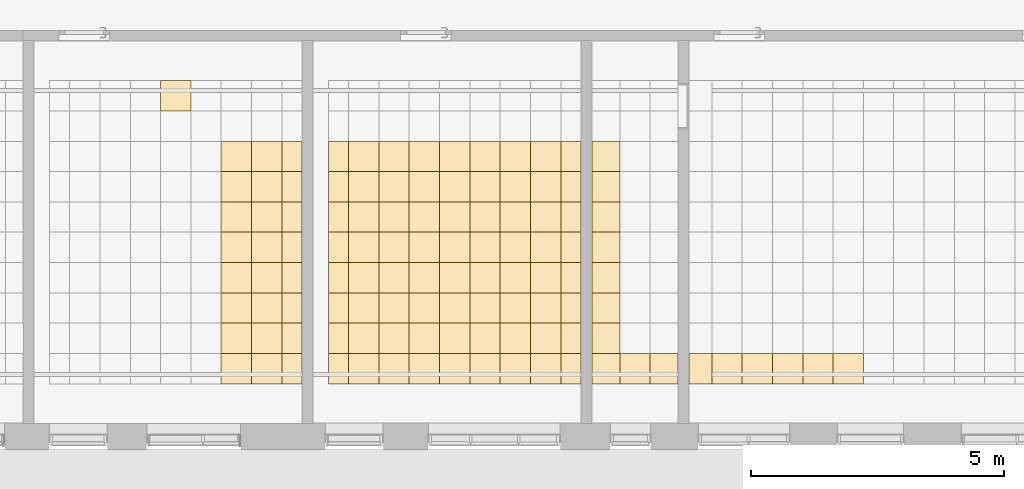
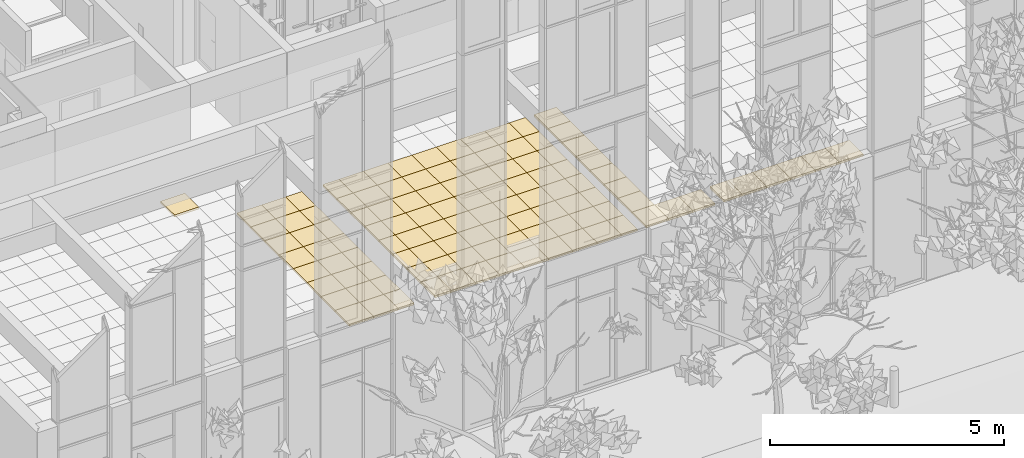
# One storey, part 189 of 246: 113 coverings.
"""IFC2X3 building model written with IfcOpenShell, lengths in millimetres."""

import ifcopenshell
import ifcopenshell.guid

model = None  # the IFC model being written
_history = None  # IfcOwnerHistory: only IFC2X3 demands one
_inside = {}  # id of a spatial element -> (the spatial element, [elements in it])
_under = {}  # id of a project, library or spatial element -> (it, [spatial elements below it])
_declared = {}  # id of a project -> (the project, [libraries it declares])
_typed = {}  # id of a type object -> (the type object, [elements of that type])
_made_of = {}  # id of a material, layer set ... -> (it, [elements and type objects made of it])


def new_model(schema):
    """Start an empty IFC model of exactly this schema.

    Asked for "IFC4X3", IfcOpenShell would pick the latest addendum, in which some entities
    have other attributes; the version numbers below select the first issue.
    IFC2X3 requires an IfcOwnerHistory on every rooted entity: one is made here for all.
    """
    global model, _history
    if schema == "IFC4X3":
        model = ifcopenshell.file(schema_version=(4, 3, 0, 0))
    else:
        model = ifcopenshell.file(schema=schema)
    _inside.clear()
    _under.clear()
    _declared.clear()
    _typed.clear()
    _made_of.clear()
    _history = None
    if model.schema == "IFC2X3":
        org = make("IfcOrganization", Name="unknown")
        user = make(
            "IfcPersonAndOrganization",
            ThePerson=make("IfcPerson", FamilyName="unknown"),
            TheOrganization=org,
        )
        app = make(
            "IfcApplication",
            ApplicationDeveloper=org,
            Version="unknown",
            ApplicationFullName="unknown",
            ApplicationIdentifier="unknown",
        )
        _history = make(
            "IfcOwnerHistory",
            OwningUser=user,
            OwningApplication=app,
            ChangeAction="ADDED",
            CreationDate=0,
        )
    return model


def make(cls, **values):
    """One entity of the class cls with the attributes given. An attribute that is None is left unset."""
    return model.create_entity(
        cls, **{name: value for name, value in values.items() if value is not None}
    )


def entity(cls, *values):
    """Any entity or typed value of the class cls, its attributes in the order of the schema. None: left unset."""
    e = model.create_entity(cls)
    for i, value in enumerate(values):
        if value is not None:
            e[i] = value
    return e


def rooted(cls, **values):
    """An entity with a GlobalId (a new one), such as an element, a storey or a relation."""
    return make(cls, GlobalId=ifcopenshell.guid.new(), OwnerHistory=_history, **values)


def si_unit(unit_type, name, prefix=None):
    """IfcSIUnit, for example si_unit("LENGTHUNIT", "METRE", prefix="MILLI")."""
    return make("IfcSIUnit", UnitType=unit_type, Prefix=prefix, Name=name)


def converted_unit(unit_type, name, factor, base, dimensions=None, offset=None):
    """IfcConversionBasedUnit, such as the inch: factor (a typed value) times the base unit."""
    return make(
        "IfcConversionBasedUnit"
        if offset is None
        else "IfcConversionBasedUnitWithOffset",
        ConversionOffset=offset,
        Dimensions=None
        if dimensions is None
        else entity("IfcDimensionalExponents", *dimensions),
        UnitType=unit_type,
        Name=name,
        ConversionFactor=make(
            "IfcMeasureWithUnit", ValueComponent=factor, UnitComponent=base
        ),
    )


def derived_unit(unit_type, elements):
    """IfcDerivedUnit: a product of units, each with its exponent."""
    return make(
        "IfcDerivedUnit",
        Elements=[
            make("IfcDerivedUnitElement", Unit=unit, Exponent=power)
            for unit, power in elements
        ],
        UnitType=unit_type,
    )


def money_unit(currency):
    """IfcMonetaryUnit."""
    return make("IfcMonetaryUnit", Currency=currency)


def assignment(units):
    """IfcUnitAssignment: the units of a project."""
    return None if units is None else make("IfcUnitAssignment", Units=units)


def point(xyz):
    """IfcCartesianPoint."""
    return None if xyz is None else make("IfcCartesianPoint", Coordinates=xyz)


def direction(xyz):
    """IfcDirection."""
    return None if xyz is None else make("IfcDirection", DirectionRatios=xyz)


def frame(location, z_axis=None, x_axis=None):
    """IfcAxis2Placement3D, a coordinate frame: its origin and axes. An axis left out is left unset."""
    return make(
        "IfcAxis2Placement3D",
        Location=point(location),
        Axis=direction(z_axis),
        RefDirection=direction(x_axis),
    )


def origin_with_axes():
    """The frame at (0, 0, 0) with the z axis (0, 0, 1) and the x axis (1, 0, 0) written out."""
    return frame((0.0, 0.0, 0.0), z_axis=(0.0, 0.0, 1.0), x_axis=(1.0, 0.0, 0.0))


def place(relative_to, where):
    """IfcLocalPlacement: puts the frame where relative to a parent placement (None: the world)."""
    return make(
        "IfcLocalPlacement", PlacementRelTo=relative_to, RelativePlacement=where
    )


def context(
    kind, dimensions, precision=None, world=None, true_north=None, identifier=None
):
    """IfcGeometricRepresentationContext, for example the 3D "Model" context."""
    return make(
        "IfcGeometricRepresentationContext",
        ContextIdentifier=identifier,
        ContextType=kind,
        CoordinateSpaceDimension=dimensions,
        Precision=precision,
        WorldCoordinateSystem=world,
        TrueNorth=true_north,
    )


def subcontext(parent, identifier, kind, view, scale=None):
    """IfcGeometricRepresentationSubContext, for example "Body" below "Model"."""
    return make(
        "IfcGeometricRepresentationSubContext",
        ContextIdentifier=identifier,
        ContextType=kind,
        ParentContext=parent,
        TargetScale=scale,
        TargetView=view,
    )


def project(units=None, contexts=None):
    """IfcProject with its units and contexts."""
    return rooted(
        "IfcProject",
        Name="project",
        RepresentationContexts=contexts,
        UnitsInContext=assignment(units),
    )


def spatial(cls, under=None, at=None, **own):
    """A site, building, storey or space (cls), placed at a placement, below another one or the project."""
    s = rooted(cls, ObjectPlacement=at, **own)
    if under is not None:
        _under.setdefault(under.id(), (under, []))[1].append(s)
    return s


def faces_of(points, faces, orient=None, outer=None):
    """IfcFace entities. A face is a list of loops; a loop is a list of indices into points, from 0.

    orient and outer hold one flag for each loop. By default every Orientation is true, the
    first loop of a face is its IfcFaceOuterBound and the others are IfcFaceBound.
    """
    made = []
    for i, loops in enumerate(faces):
        bounds = []
        for j, loop in enumerate(loops):
            is_outer = j == 0 if outer is None else outer[i][j]
            bounds.append(
                make(
                    "IfcFaceOuterBound" if is_outer else "IfcFaceBound",
                    Bound=make("IfcPolyLoop", Polygon=[points[k] for k in loop]),
                    Orientation=True if orient is None else orient[i][j],
                )
            )
        made.append(make("IfcFace", Bounds=bounds))
    return made


def faceted_brep(points, faces, orient=None, outer=None, voids=None):
    """IfcFacetedBrep: a solid bounded by flat faces; with voids (closed shells), ...WithVoids."""
    shared = [point(p) for p in points]
    hull = make("IfcClosedShell", CfsFaces=faces_of(shared, faces, orient, outer))
    if voids is None:
        return make("IfcFacetedBrep", Outer=hull)
    return make(
        "IfcFacetedBrepWithVoids",
        Outer=hull,
        Voids=[
            make(cls, CfsFaces=faces_of(shared, fs, o, b)) for cls, fs, o, b in voids
        ],
    )


def shape(context_of_items, identifier, shape_type, items):
    """IfcShapeRepresentation: the items that make up one representation, for example the "Body"."""
    return make(
        "IfcShapeRepresentation",
        ContextOfItems=context_of_items,
        RepresentationIdentifier=identifier,
        RepresentationType=shape_type,
        Items=items,
    )


def material(Name=None, Category=None):
    """IfcMaterial."""
    return make("IfcMaterial", Name=Name, Category=Category)


def material_list(materials):
    """IfcMaterialList."""
    return make("IfcMaterialList", Materials=materials)


def made_of(thing, what):
    """Note that an element or type object is made of a material, layer set ...; save() writes the relation."""
    if what is not None:
        _made_of.setdefault(what.id(), (what, []))[1].append(thing)
    return thing


def type_object(cls, material=None, **own):
    """A type object (cls), such as IfcWallType, which elements share."""
    return made_of(rooted(cls, **own), material)


def element(
    cls,
    number,
    at=None,
    inside=None,
    cuts=None,
    type_object=None,
    material=None,
    context=None,
    identifier="Body",
    shape_type=None,
    held_by="IfcProductDefinitionShape",
    body=None,
    shapes=None,
    **own,
):
    """One element of the class cls, such as IfcWall. Its Tag is "e" and its number.

    at: its placement. inside: the storey or other place that contains it. cuts: it is an
    opening in that element (IfcRelVoidsElement). A single representation is given by context,
    identifier, shape_type and body (its items); several are given by shapes. held_by: the class
    of the entity that holds the representations. save() writes the other relations.
    """
    e = rooted(cls, Tag="e%d" % number, ObjectPlacement=at, **own)
    if body is not None:
        shapes = [shape(context, identifier, shape_type, body)]
    if shapes is not None:
        e.Representation = make(held_by, Representations=shapes)
    if inside is not None:
        _inside.setdefault(inside.id(), (inside, []))[1].append(e)
    if cuts is not None:
        rooted(
            "IfcRelVoidsElement", RelatingBuildingElement=cuts, RelatedOpeningElement=e
        )
    if type_object is not None:
        _typed.setdefault(type_object.id(), (type_object, []))[1].append(e)
    return made_of(e, material)


def aggregate(whole, parts):
    """IfcRelAggregates: a whole, such as a stair, and the parts it consists of."""
    return rooted("IfcRelAggregates", RelatingObject=whole, RelatedObjects=parts)


def save(model, path):
    """Write the relations noted so far, then the file.

    IfcRelAggregates (storeys below a building ...), IfcRelContainedInSpatialStructure (elements
    in a storey), IfcRelDefinesByType, IfcRelAssociatesMaterial and IfcRelDeclares: one each for
    every whole, place, type object, material and project.
    """
    for whole, parts in _under.values():
        aggregate(whole, parts)
    for where, things in _inside.values():
        rooted(
            "IfcRelContainedInSpatialStructure",
            RelatedElements=things,
            RelatingStructure=where,
        )
    for kind, things in _typed.values():
        rooted("IfcRelDefinesByType", RelatedObjects=things, RelatingType=kind)
    for what, things in _made_of.values():
        rooted("IfcRelAssociatesMaterial", RelatedObjects=things, RelatingMaterial=what)
    for by, libraries in _declared.values():
        rooted("IfcRelDeclares", RelatingContext=by, RelatedDefinitions=libraries)
    model.write(path)


model = new_model("IFC2X3")

# Units and contexts
model_context = context("Model", 3, precision=0.01, world=origin_with_axes(), true_north=direction((0.0, 1.0)))
body_context = subcontext(model_context, "Body", "Model", "MODEL_VIEW")
ifc_project = project(units=[si_unit("LENGTHUNIT", "METRE", prefix="MILLI"), si_unit("AREAUNIT", "SQUARE_METRE"), si_unit("VOLUMEUNIT", "CUBIC_METRE"), converted_unit("PLANEANGLEUNIT", "DEGREE", entity("IfcPlaneAngleMeasure", 0.0174532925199), si_unit("PLANEANGLEUNIT", "RADIAN"), dimensions=[0, 0, 0, 0, 0, 0, 0]), si_unit("SOLIDANGLEUNIT", "STERADIAN"), money_unit("EUR"), converted_unit("TIMEUNIT", "Year", entity("IfcTimeMeasure", 31556926.0), si_unit("TIMEUNIT", "SECOND"), dimensions=[0, 0, 1, 0, 0, 0, 0]), si_unit("MASSUNIT", "GRAM", prefix="KILO"), si_unit("THERMODYNAMICTEMPERATUREUNIT", "DEGREE_CELSIUS"), si_unit("LUMINOUSINTENSITYUNIT", "LUMEN"), si_unit("ENERGYUNIT", "JOULE", prefix="MEGA"), derived_unit("THERMALCONDUCTANCEUNIT", [(si_unit("POWERUNIT", "WATT"), 1), (si_unit("LENGTHUNIT", "METRE"), -1), (si_unit("THERMODYNAMICTEMPERATUREUNIT", "KELVIN"), -1)]), derived_unit("SPECIFICHEATCAPACITYUNIT", [(si_unit("ENERGYUNIT", "JOULE"), 1), (si_unit("MASSUNIT", "GRAM", prefix="KILO"), -1), (si_unit("THERMODYNAMICTEMPERATUREUNIT", "KELVIN"), -1)]), derived_unit("MASSDENSITYUNIT", [(si_unit("MASSUNIT", "GRAM", prefix="KILO"), 1), (si_unit("VOLUMEUNIT", "CUBIC_METRE"), -1)])], contexts=[model_context])

# Site, building, storey
site_placement = place(None, origin_with_axes())
site = spatial("IfcSite", under=ifc_project, at=site_placement, Name="L.Koidula tn 11b", CompositionType="ELEMENT")
building_placement = place(site_placement, origin_with_axes())
building = spatial("IfcBuilding", under=site, at=building_placement, Name="Rakvere Riigigümnaasium", CompositionType="ELEMENT")
storey_placement = place(building_placement, origin_with_axes())
storey = spatial("IfcBuildingStorey", under=building, at=storey_placement, Name="1.korrus 0,00", CompositionType="ELEMENT", Elevation=0.0)

# Coverings
ifc_material_1 = material(Name="Karkass")
ifc_material_2 = material(Name="Kipsplaat")
ifc_material_list = material_list([ifc_material_1, ifc_material_2])
covering_type = type_object("IfcCoveringType", Name="SA-LV-Kips-moodul 55", PredefinedType="CEILING")
covering_1_placement = place(storey_placement, frame((50789.9766386, 6890.4544728, 2750.0), z_axis=(0.0, 0.0, 1.0), x_axis=(1.0, 0.0, 0.0)))
element("IfcCovering", 1, at=covering_1_placement, inside=storey, type_object=covering_type, material=ifc_material_list, Name="L-03", PredefinedType="CEILING", context=body_context, shape_type="Brep", body=[
    faceted_brep([(550.0, 0.0, 12.5), (550.0, 0.0, 54.5), (0.0, 0.0, 54.5), (0.0, 0.0, 12.5), (550.0, 600.0, 12.5), (550.0, 600.0, 54.5), (0.0, 600.0, 54.5), (0.0, 600.0, 12.5)], [[[0, 1, 2, 3]], [[4, 5, 1, 0]], [[2, 1, 5, 6]], [[3, 2, 6, 7]], [[3, 7, 4, 0]], [[7, 6, 5, 4]]]),
    faceted_brep([(0.0, 0.0, 0.0), (550.0, 0.0, 0.0), (550.0, 0.0, 12.5), (0.0, 0.0, 12.5), (0.0, 600.0, 0.0), (550.0, 600.0, 0.0), (550.0, 600.0, 12.5), (0.0, 600.0, 12.5)], [[[0, 1, 2, 3]], [[0, 4, 5, 1]], [[1, 5, 6, 2]], [[3, 2, 6, 7]], [[4, 0, 3, 7]], [[5, 4, 7, 6]]]),
])
covering_2_placement = place(storey_placement, frame((51339.9766386, 6290.4544728, 2750.0), z_axis=(0.0, 0.0, 1.0), x_axis=(1.0, 0.0, 0.0)))
element("IfcCovering", 2, at=covering_2_placement, inside=storey, type_object=covering_type, material=ifc_material_list, Name="L-03", PredefinedType="CEILING", context=body_context, shape_type="Brep", body=[
    faceted_brep([(600.0, 0.0, 12.5), (600.0, 0.0, 54.5), (0.0, 0.0, 54.5), (0.0, 0.0, 12.5), (600.0, 600.0, 12.5), (600.0, 600.0, 54.5), (0.0, 600.0, 54.5), (0.0, 600.0, 12.5)], [[[0, 1, 2, 3]], [[4, 5, 1, 0]], [[2, 1, 5, 6]], [[3, 2, 6, 7]], [[3, 7, 4, 0]], [[7, 6, 5, 4]]]),
    faceted_brep([(0.0, 0.0, 0.0), (600.0, 0.0, 0.0), (600.0, 0.0, 12.5), (0.0, 0.0, 12.5), (0.0, 600.0, 0.0), (600.0, 600.0, 0.0), (600.0, 600.0, 12.5), (0.0, 600.0, 12.5)], [[[0, 1, 2, 3]], [[0, 4, 5, 1]], [[1, 5, 6, 2]], [[3, 2, 6, 7]], [[4, 0, 3, 7]], [[5, 4, 7, 6]]]),
])
for number, where, z_axis, x_axis, name in (
    (3, (50789.9766386, 6290.4544728, 2750.0), (0.0, 0.0, 1.0), (1.0, 0.0, 0.0), "L-03"),
    (4, (50789.9766386, 10490.4544728, 2750.0), (0.0, 0.0, 1.0), (1.0, 0.0, 0.0), "L-03"),
    (5, (50789.9766386, 9890.4544728, 2750.0), (0.0, 0.0, 1.0), (1.0, 0.0, 0.0), "L-03"),
    (6, (50789.9766386, 9290.4544728, 2750.0), (0.0, 0.0, 1.0), (1.0, 0.0, 0.0), "L-03"),
    (7, (50789.9766386, 8690.4544728, 2750.0), (0.0, 0.0, 1.0), (1.0, 0.0, 0.0), "L-03"),
    (8, (50789.9766386, 8090.4544728, 2750.0), (0.0, 0.0, 1.0), (1.0, 0.0, 0.0), "L-03"),
    (9, (50789.9766386, 7490.4544728, 2750.0), (0.0, 0.0, 1.0), (1.0, 0.0, 0.0), "L-03"),
    (10, (51939.9766386, 6290.4544728, 2750.0), (0.0, 0.0, 1.0), (1.0, 0.0, 0.0), "L-03"),
):
    element("IfcCovering", number, at=place(storey_placement, frame(where, z_axis=z_axis, x_axis=x_axis)), inside=storey, type_object=covering_type, material=ifc_material_list, Name=name, PredefinedType="CEILING", context=body_context, shape_type="Brep", body=[
        faceted_brep([(550.0, 0.0, 12.5), (550.0, 0.0, 54.5), (0.0, 0.0, 54.5), (0.0, 0.0, 12.5), (550.0, 600.0, 12.5), (550.0, 600.0, 54.5), (0.0, 600.0, 54.5), (0.0, 600.0, 12.5)], [[[0, 1, 2, 3]], [[4, 5, 1, 0]], [[2, 1, 5, 6]], [[3, 2, 6, 7]], [[3, 7, 4, 0]], [[7, 6, 5, 4]]]),
        faceted_brep([(0.0, 0.0, 0.0), (550.0, 0.0, 0.0), (550.0, 0.0, 12.5), (0.0, 0.0, 12.5), (0.0, 600.0, 0.0), (550.0, 600.0, 0.0), (550.0, 600.0, 12.5), (0.0, 600.0, 12.5)], [[[0, 1, 2, 3]], [[0, 4, 5, 1]], [[1, 5, 6, 2]], [[3, 2, 6, 7]], [[4, 0, 3, 7]], [[5, 4, 7, 6]]]),
    ])
covering_3_placement = place(storey_placement, frame((42250.0010615, 11690.4535941, 2750.0), z_axis=(0.0, 0.0, 1.0), x_axis=(1.0, 0.0, 0.0)))
element("IfcCovering", 11, at=covering_3_placement, inside=storey, type_object=covering_type, material=ifc_material_list, Name="L-03", PredefinedType="CEILING", context=body_context, shape_type="Brep", body=[
    faceted_brep([(600.0, 0.0, 12.5), (600.0, 0.0, 54.5), (0.0, 0.0, 54.5), (0.0, 0.0, 12.5), (600.0, 600.0, 12.5), (600.0, 600.0, 54.5), (0.0, 600.0, 54.5), (0.0, 600.0, 12.5)], [[[0, 1, 2, 3]], [[4, 5, 1, 0]], [[2, 1, 5, 6]], [[3, 2, 6, 7]], [[3, 7, 4, 0]], [[7, 6, 5, 4]]]),
    faceted_brep([(0.0, 0.0, 0.0), (600.0, 0.0, 0.0), (600.0, 0.0, 12.5), (0.0, 0.0, 12.5), (0.0, 600.0, 0.0), (600.0, 600.0, 0.0), (600.0, 600.0, 12.5), (0.0, 600.0, 12.5)], [[[0, 1, 2, 3]], [[0, 4, 5, 1]], [[1, 5, 6, 2]], [[3, 2, 6, 7]], [[4, 0, 3, 7]], [[5, 4, 7, 6]]]),
])
for number, where, z_axis, x_axis, name in (
    (12, (44050.0010098, 10490.4535941, 2750.0), (0.0, 0.0, 1.0), (1.0, 0.0, 0.0), "L-03"),
    (13, (44050.0010098, 9890.45359412, 2750.0), (0.0, 0.0, 1.0), (1.0, 0.0, 0.0), "L-03"),
    (14, (44050.0010098, 9290.45359412, 2750.0), (0.0, 0.0, 1.0), (1.0, 0.0, 0.0), "L-03"),
    (15, (44050.0010098, 8690.45359412, 2750.0), (0.0, 0.0, 1.0), (1.0, 0.0, 0.0), "L-03"),
    (16, (44050.0010098, 8090.45359412, 2750.0), (0.0, 0.0, 1.0), (1.0, 0.0, 0.0), "L-03"),
    (17, (44050.0010098, 7490.45359412, 2750.0), (0.0, 0.0, 1.0), (1.0, 0.0, 0.0), "L-03"),
    (18, (44050.0010098, 6290.45359412, 2750.0), (0.0, 0.0, 1.0), (1.0, 0.0, 0.0), "L-03"),
    (19, (44050.0010098, 6890.45359412, 2750.0), (0.0, 0.0, 1.0), (1.0, 0.0, 0.0), "L-03"),
):
    element("IfcCovering", number, at=place(storey_placement, frame(where, z_axis=z_axis, x_axis=x_axis)), inside=storey, type_object=covering_type, material=ifc_material_list, Name=name, PredefinedType="CEILING", context=body_context, shape_type="Brep", body=[
        faceted_brep([(599.999948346, 0.0, 12.5), (599.999948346, 0.0, 54.5), (0.0, 0.0, 54.5), (0.0, 0.0, 12.5), (599.999948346, 600.0, 12.5), (599.999948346, 600.0, 54.5), (0.0, 600.0, 54.5), (0.0, 600.0, 12.5)], [[[0, 1, 2, 3]], [[4, 5, 1, 0]], [[2, 1, 5, 6]], [[3, 2, 6, 7]], [[3, 7, 4, 0]], [[7, 6, 5, 4]]]),
        faceted_brep([(0.0, 0.0, 0.0), (599.999948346, 0.0, 0.0), (599.999948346, 0.0, 12.5), (0.0, 0.0, 12.5), (0.0, 600.0, 0.0), (599.999948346, 600.0, 0.0), (599.999948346, 600.0, 12.5), (0.0, 600.0, 12.5)], [[[0, 1, 2, 3]], [[0, 4, 5, 1]], [[1, 5, 6, 2]], [[3, 2, 6, 7]], [[4, 0, 3, 7]], [[5, 4, 7, 6]]]),
    ])
for number, where, z_axis, x_axis, name in (
    (20, (43450.0010098, 7490.45359412, 2750.0), (0.0, 0.0, 1.0), (1.0, 0.0, 0.0), "L-03"),
    (21, (43450.0010098, 8090.45359412, 2750.0), (0.0, 0.0, 1.0), (1.0, 0.0, 0.0), "L-03"),
    (22, (43450.0010098, 8690.45359412, 2750.0), (0.0, 0.0, 1.0), (1.0, 0.0, 0.0), "L-03"),
    (23, (43450.0010098, 9290.45359412, 2750.0), (0.0, 0.0, 1.0), (1.0, 0.0, 0.0), "L-03"),
    (24, (43450.0010098, 9890.45359412, 2750.0), (0.0, 0.0, 1.0), (1.0, 0.0, 0.0), "L-03"),
    (25, (43450.0010098, 10490.4535941, 2750.0), (0.0, 0.0, 1.0), (1.0, 0.0, 0.0), "L-03"),
    (26, (43450.0010098, 6290.45359412, 2750.0), (0.0, 0.0, 1.0), (1.0, 0.0, 0.0), "L-03"),
    (27, (43450.0010098, 6890.45359412, 2750.0), (0.0, 0.0, 1.0), (1.0, 0.0, 0.0), "L-03"),
):
    element("IfcCovering", number, at=place(storey_placement, frame(where, z_axis=z_axis, x_axis=x_axis)), inside=storey, type_object=covering_type, material=ifc_material_list, Name=name, PredefinedType="CEILING", context=body_context, shape_type="Brep", body=[
        faceted_brep([(600.0, 0.0, 12.5), (600.0, 0.0, 54.5), (0.0, 0.0, 54.5), (0.0, 0.0, 12.5), (600.0, 600.0, 12.5), (600.0, 600.0, 54.5), (0.0, 600.0, 54.5), (0.0, 600.0, 12.5)], [[[0, 1, 2, 3]], [[4, 5, 1, 0]], [[2, 1, 5, 6]], [[3, 2, 6, 7]], [[3, 7, 4, 0]], [[7, 6, 5, 4]]]),
        faceted_brep([(0.0, 0.0, 0.0), (600.0, 0.0, 0.0), (600.0, 0.0, 12.5), (0.0, 0.0, 12.5), (0.0, 600.0, 0.0), (600.0, 600.0, 0.0), (600.0, 600.0, 12.5), (0.0, 600.0, 12.5)], [[[0, 1, 2, 3]], [[0, 4, 5, 1]], [[1, 5, 6, 2]], [[3, 2, 6, 7]], [[4, 0, 3, 7]], [[5, 4, 7, 6]]]),
    ])
for number, where, z_axis, x_axis, name in (
    (28, (44650.0009582, 7490.45359412, 2750.0), (0.0, 0.0, 1.0), (1.0, 0.0, 0.0), "L-03"),
    (29, (44650.0009582, 8090.45359412, 2750.0), (0.0, 0.0, 1.0), (1.0, 0.0, 0.0), "L-03"),
    (30, (44650.0009582, 8690.45359412, 2750.0), (0.0, 0.0, 1.0), (1.0, 0.0, 0.0), "L-03"),
    (31, (44650.0009582, 9290.45359412, 2750.0), (0.0, 0.0, 1.0), (1.0, 0.0, 0.0), "L-03"),
    (32, (44650.0009582, 9890.45359412, 2750.0), (0.0, 0.0, 1.0), (1.0, 0.0, 0.0), "L-03"),
    (33, (44650.0009582, 10490.4535941, 2750.0), (0.0, 0.0, 1.0), (1.0, 0.0, 0.0), "L-03"),
    (34, (44650.0009582, 6290.45359412, 2750.0), (0.0, 0.0, 1.0), (1.0, 0.0, 0.0), "L-03"),
    (35, (44650.0009582, 6890.45359412, 2750.0), (0.0, 0.0, 1.0), (1.0, 0.0, 0.0), "L-03"),
):
    element("IfcCovering", number, at=place(storey_placement, frame(where, z_axis=z_axis, x_axis=x_axis)), inside=storey, type_object=covering_type, material=ifc_material_list, Name=name, PredefinedType="CEILING", context=body_context, shape_type="Brep", body=[
        faceted_brep([(399.999039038, 0.0, 12.5), (399.999039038, 0.0, 54.5), (0.0, 0.0, 54.5), (0.0, 0.0, 12.5), (399.999039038, 600.0, 12.5), (399.999039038, 600.0, 54.5), (0.0, 600.0, 54.5), (0.0, 600.0, 12.5)], [[[0, 1, 2, 3]], [[4, 5, 1, 0]], [[2, 1, 5, 6]], [[3, 2, 6, 7]], [[3, 7, 4, 0]], [[7, 6, 5, 4]]]),
        faceted_brep([(0.0, 0.0, 0.0), (399.999039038, 0.0, 0.0), (399.999039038, 0.0, 12.5), (0.0, 0.0, 12.5), (0.0, 600.0, 0.0), (399.999039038, 600.0, 0.0), (399.999039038, 600.0, 12.5), (0.0, 600.0, 12.5)], [[[0, 1, 2, 3]], [[0, 4, 5, 1]], [[1, 5, 6, 2]], [[3, 2, 6, 7]], [[4, 0, 3, 7]], [[5, 4, 7, 6]]]),
    ])
for number, where, z_axis, x_axis, name in (
    (36, (45969.6842448, 10490.4535941, 2750.0), (0.0, 0.0, 1.0), (1.0, 0.0, 0.0), "L-03"),
    (37, (45969.6842448, 9890.45359412, 2750.0), (0.0, 0.0, 1.0), (1.0, 0.0, 0.0), "L-03"),
    (38, (45969.6842448, 9290.45359412, 2750.0), (0.0, 0.0, 1.0), (1.0, 0.0, 0.0), "L-03"),
    (39, (45969.6842448, 8690.45359412, 2750.0), (0.0, 0.0, 1.0), (1.0, 0.0, 0.0), "L-03"),
    (40, (45969.6842448, 8090.45359412, 2750.0), (0.0, 0.0, 1.0), (1.0, 0.0, 0.0), "L-03"),
    (41, (45969.6842448, 7490.45359412, 2750.0), (0.0, 0.0, 1.0), (1.0, 0.0, 0.0), "L-03"),
    (42, (45969.6842448, 6290.45359412, 2750.0), (0.0, 0.0, 1.0), (1.0, 0.0, 0.0), "L-03"),
    (43, (45969.6842448, 6890.45359412, 2750.0), (0.0, 0.0, 1.0), (1.0, 0.0, 0.0), "L-03"),
):
    element("IfcCovering", number, at=place(storey_placement, frame(where, z_axis=z_axis, x_axis=x_axis)), inside=storey, type_object=covering_type, material=ifc_material_list, Name=name, PredefinedType="CEILING", context=body_context, shape_type="Brep", body=[
        faceted_brep([(599.999948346, 0.0, 12.5), (599.999948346, 0.0, 54.5), (0.0, 0.0, 54.5), (0.0, 0.0, 12.5), (599.999948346, 600.0, 12.5), (599.999948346, 600.0, 54.5), (0.0, 600.0, 54.5), (0.0, 600.0, 12.5)], [[[0, 1, 2, 3]], [[4, 5, 1, 0]], [[2, 1, 5, 6]], [[3, 2, 6, 7]], [[3, 7, 4, 0]], [[7, 6, 5, 4]]]),
        faceted_brep([(0.0, 0.0, 0.0), (599.999948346, 0.0, 0.0), (599.999948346, 0.0, 12.5), (0.0, 0.0, 12.5), (0.0, 600.0, 0.0), (599.999948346, 600.0, 0.0), (599.999948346, 600.0, 12.5), (0.0, 600.0, 12.5)], [[[0, 1, 2, 3]], [[0, 4, 5, 1]], [[1, 5, 6, 2]], [[3, 2, 6, 7]], [[4, 0, 3, 7]], [[5, 4, 7, 6]]]),
    ])
for number, where, z_axis, x_axis, name in (
    (44, (45569.6830772, 7490.45359412, 2750.0), (0.0, 0.0, 1.0), (1.0, 0.0, 0.0), "L-03"),
    (45, (45569.6830772, 8090.45359412, 2750.0), (0.0, 0.0, 1.0), (1.0, 0.0, 0.0), "L-03"),
    (46, (45569.6830772, 8690.45359412, 2750.0), (0.0, 0.0, 1.0), (1.0, 0.0, 0.0), "L-03"),
    (47, (45569.6830772, 9290.45359412, 2750.0), (0.0, 0.0, 1.0), (1.0, 0.0, 0.0), "L-03"),
    (48, (45569.6830772, 9890.45359412, 2750.0), (0.0, 0.0, 1.0), (1.0, 0.0, 0.0), "L-03"),
    (49, (45569.6830772, 10490.4535941, 2750.0), (0.0, 0.0, 1.0), (1.0, 0.0, 0.0), "L-03"),
    (50, (45569.6830772, 6290.45359412, 2750.0), (0.0, 0.0, 1.0), (1.0, 0.0, 0.0), "L-03"),
    (51, (45569.6830772, 6890.45359412, 2750.0), (0.0, 0.0, 1.0), (1.0, 0.0, 0.0), "L-03"),
):
    element("IfcCovering", number, at=place(storey_placement, frame(where, z_axis=z_axis, x_axis=x_axis)), inside=storey, type_object=covering_type, material=ifc_material_list, Name=name, PredefinedType="CEILING", context=body_context, shape_type="Brep", body=[
        faceted_brep([(400.001167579, 0.0, 12.5), (400.001167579, 0.0, 54.5), (0.0, 0.0, 54.5), (0.0, 0.0, 12.5), (400.001167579, 600.0, 12.5), (400.001167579, 600.0, 54.5), (0.0, 600.0, 54.5), (0.0, 600.0, 12.5)], [[[0, 1, 2, 3]], [[4, 5, 1, 0]], [[2, 1, 5, 6]], [[3, 2, 6, 7]], [[3, 7, 4, 0]], [[7, 6, 5, 4]]]),
        faceted_brep([(0.0, 0.0, 0.0), (400.001167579, 0.0, 0.0), (400.001167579, 0.0, 12.5), (0.0, 0.0, 12.5), (0.0, 600.0, 0.0), (400.001167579, 600.0, 0.0), (400.001167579, 600.0, 12.5), (0.0, 600.0, 12.5)], [[[0, 1, 2, 3]], [[0, 4, 5, 1]], [[1, 5, 6, 2]], [[3, 2, 6, 7]], [[4, 0, 3, 7]], [[5, 4, 7, 6]]]),
    ])
for number, where, z_axis, x_axis, name in (
    (52, (47169.6841932, 10490.4535941, 2750.0), (0.0, 0.0, 1.0), (1.0, 0.0, 0.0), "L-03"),
    (53, (47169.6841932, 9890.45359412, 2750.0), (0.0, 0.0, 1.0), (1.0, 0.0, 0.0), "L-03"),
    (54, (47169.6841932, 9290.45359412, 2750.0), (0.0, 0.0, 1.0), (1.0, 0.0, 0.0), "L-03"),
    (55, (47169.6841932, 8690.45359412, 2750.0), (0.0, 0.0, 1.0), (1.0, 0.0, 0.0), "L-03"),
    (56, (47169.6841932, 8090.45359412, 2750.0), (0.0, 0.0, 1.0), (1.0, 0.0, 0.0), "L-03"),
    (57, (47169.6841932, 7490.45359412, 2750.0), (0.0, 0.0, 1.0), (1.0, 0.0, 0.0), "L-03"),
    (58, (47169.6841932, 6290.45359412, 2750.0), (0.0, 0.0, 1.0), (1.0, 0.0, 0.0), "L-03"),
    (59, (47169.6841932, 6890.45359412, 2750.0), (0.0, 0.0, 1.0), (1.0, 0.0, 0.0), "L-03"),
):
    element("IfcCovering", number, at=place(storey_placement, frame(where, z_axis=z_axis, x_axis=x_axis)), inside=storey, type_object=covering_type, material=ifc_material_list, Name=name, PredefinedType="CEILING", context=body_context, shape_type="Brep", body=[
        faceted_brep([(599.999948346, 0.0, 12.5), (599.999948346, 0.0, 54.5), (0.0, 0.0, 54.5), (0.0, 0.0, 12.5), (599.999948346, 600.0, 12.5), (599.999948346, 600.0, 54.5), (0.0, 600.0, 54.5), (0.0, 600.0, 12.5)], [[[0, 1, 2, 3]], [[4, 5, 1, 0]], [[2, 1, 5, 6]], [[3, 2, 6, 7]], [[3, 7, 4, 0]], [[7, 6, 5, 4]]]),
        faceted_brep([(0.0, 0.0, 0.0), (599.999948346, 0.0, 0.0), (599.999948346, 0.0, 12.5), (0.0, 0.0, 12.5), (0.0, 600.0, 0.0), (599.999948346, 600.0, 0.0), (599.999948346, 600.0, 12.5), (0.0, 600.0, 12.5)], [[[0, 1, 2, 3]], [[0, 4, 5, 1]], [[1, 5, 6, 2]], [[3, 2, 6, 7]], [[4, 0, 3, 7]], [[5, 4, 7, 6]]]),
    ])
for number, where, z_axis, x_axis, name in (
    (60, (46569.6841932, 7490.45359412, 2750.0), (0.0, 0.0, 1.0), (1.0, 0.0, 0.0), "L-03"),
    (61, (46569.6841932, 8090.45359412, 2750.0), (0.0, 0.0, 1.0), (1.0, 0.0, 0.0), "L-03"),
    (62, (46569.6841932, 8690.45359412, 2750.0), (0.0, 0.0, 1.0), (1.0, 0.0, 0.0), "L-03"),
    (63, (46569.6841932, 9290.45359412, 2750.0), (0.0, 0.0, 1.0), (1.0, 0.0, 0.0), "L-03"),
    (64, (46569.6841932, 9890.45359412, 2750.0), (0.0, 0.0, 1.0), (1.0, 0.0, 0.0), "L-03"),
    (65, (46569.6841932, 10490.4535941, 2750.0), (0.0, 0.0, 1.0), (1.0, 0.0, 0.0), "L-03"),
    (66, (46569.6841932, 6290.45359412, 2750.0), (0.0, 0.0, 1.0), (1.0, 0.0, 0.0), "L-03"),
    (67, (46569.6841932, 6890.45359412, 2750.0), (0.0, 0.0, 1.0), (1.0, 0.0, 0.0), "L-03"),
):
    element("IfcCovering", number, at=place(storey_placement, frame(where, z_axis=z_axis, x_axis=x_axis)), inside=storey, type_object=covering_type, material=ifc_material_list, Name=name, PredefinedType="CEILING", context=body_context, shape_type="Brep", body=[
        faceted_brep([(600.0, 0.0, 12.5), (600.0, 0.0, 54.5), (0.0, 0.0, 54.5), (0.0, 0.0, 12.5), (600.0, 600.0, 12.5), (600.0, 600.0, 54.5), (0.0, 600.0, 54.5), (0.0, 600.0, 12.5)], [[[0, 1, 2, 3]], [[4, 5, 1, 0]], [[2, 1, 5, 6]], [[3, 2, 6, 7]], [[3, 7, 4, 0]], [[7, 6, 5, 4]]]),
        faceted_brep([(0.0, 0.0, 0.0), (600.0, 0.0, 0.0), (600.0, 0.0, 12.5), (0.0, 0.0, 12.5), (0.0, 600.0, 0.0), (600.0, 600.0, 0.0), (600.0, 600.0, 12.5), (0.0, 600.0, 12.5)], [[[0, 1, 2, 3]], [[0, 4, 5, 1]], [[1, 5, 6, 2]], [[3, 2, 6, 7]], [[4, 0, 3, 7]], [[5, 4, 7, 6]]]),
    ])
for number, where, z_axis, x_axis, name in (
    (68, (48369.6841415, 10490.4535941, 2750.0), (0.0, 0.0, 1.0), (1.0, 0.0, 0.0), "L-03"),
    (69, (48369.6841415, 9890.45359412, 2750.0), (0.0, 0.0, 1.0), (1.0, 0.0, 0.0), "L-03"),
    (70, (48369.6841415, 9290.45359412, 2750.0), (0.0, 0.0, 1.0), (1.0, 0.0, 0.0), "L-03"),
    (71, (48369.6841415, 8690.45359412, 2750.0), (0.0, 0.0, 1.0), (1.0, 0.0, 0.0), "L-03"),
    (72, (48369.6841415, 8090.45359412, 2750.0), (0.0, 0.0, 1.0), (1.0, 0.0, 0.0), "L-03"),
    (73, (48369.6841415, 7490.45359412, 2750.0), (0.0, 0.0, 1.0), (1.0, 0.0, 0.0), "L-03"),
    (74, (48369.6841415, 6290.45359412, 2750.0), (0.0, 0.0, 1.0), (1.0, 0.0, 0.0), "L-03"),
    (75, (48369.6841415, 6890.45359412, 2750.0), (0.0, 0.0, 1.0), (1.0, 0.0, 0.0), "L-03"),
):
    element("IfcCovering", number, at=place(storey_placement, frame(where, z_axis=z_axis, x_axis=x_axis)), inside=storey, type_object=covering_type, material=ifc_material_list, Name=name, PredefinedType="CEILING", context=body_context, shape_type="Brep", body=[
        faceted_brep([(599.999948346, 0.0, 12.5), (599.999948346, 0.0, 54.5), (0.0, 0.0, 54.5), (0.0, 0.0, 12.5), (599.999948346, 600.0, 12.5), (599.999948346, 600.0, 54.5), (0.0, 600.0, 54.5), (0.0, 600.0, 12.5)], [[[0, 1, 2, 3]], [[4, 5, 1, 0]], [[2, 1, 5, 6]], [[3, 2, 6, 7]], [[3, 7, 4, 0]], [[7, 6, 5, 4]]]),
        faceted_brep([(0.0, 0.0, 0.0), (599.999948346, 0.0, 0.0), (599.999948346, 0.0, 12.5), (0.0, 0.0, 12.5), (0.0, 600.0, 0.0), (599.999948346, 600.0, 0.0), (599.999948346, 600.0, 12.5), (0.0, 600.0, 12.5)], [[[0, 1, 2, 3]], [[0, 4, 5, 1]], [[1, 5, 6, 2]], [[3, 2, 6, 7]], [[4, 0, 3, 7]], [[5, 4, 7, 6]]]),
    ])
for number, where, z_axis, x_axis, name in (
    (76, (47769.6841415, 7490.45359412, 2750.0), (0.0, 0.0, 1.0), (1.0, 0.0, 0.0), "L-03"),
    (77, (47769.6841415, 8090.45359412, 2750.0), (0.0, 0.0, 1.0), (1.0, 0.0, 0.0), "L-03"),
    (78, (47769.6841415, 8690.45359412, 2750.0), (0.0, 0.0, 1.0), (1.0, 0.0, 0.0), "L-03"),
    (79, (47769.6841415, 9290.45359412, 2750.0), (0.0, 0.0, 1.0), (1.0, 0.0, 0.0), "L-03"),
    (80, (47769.6841415, 9890.45359412, 2750.0), (0.0, 0.0, 1.0), (1.0, 0.0, 0.0), "L-03"),
    (81, (47769.6841415, 10490.4535941, 2750.0), (0.0, 0.0, 1.0), (1.0, 0.0, 0.0), "L-03"),
    (82, (47769.6841415, 6290.45359412, 2750.0), (0.0, 0.0, 1.0), (1.0, 0.0, 0.0), "L-03"),
    (83, (47769.6841415, 6890.45359412, 2750.0), (0.0, 0.0, 1.0), (1.0, 0.0, 0.0), "L-03"),
):
    element("IfcCovering", number, at=place(storey_placement, frame(where, z_axis=z_axis, x_axis=x_axis)), inside=storey, type_object=covering_type, material=ifc_material_list, Name=name, PredefinedType="CEILING", context=body_context, shape_type="Brep", body=[
        faceted_brep([(600.0, 0.0, 12.5), (600.0, 0.0, 54.5), (0.0, 0.0, 54.5), (0.0, 0.0, 12.5), (600.0, 600.0, 12.5), (600.0, 600.0, 54.5), (0.0, 600.0, 54.5), (0.0, 600.0, 12.5)], [[[0, 1, 2, 3]], [[4, 5, 1, 0]], [[2, 1, 5, 6]], [[3, 2, 6, 7]], [[3, 7, 4, 0]], [[7, 6, 5, 4]]]),
        faceted_brep([(0.0, 0.0, 0.0), (600.0, 0.0, 0.0), (600.0, 0.0, 12.5), (0.0, 0.0, 12.5), (0.0, 600.0, 0.0), (600.0, 600.0, 0.0), (600.0, 600.0, 12.5), (0.0, 600.0, 12.5)], [[[0, 1, 2, 3]], [[0, 4, 5, 1]], [[1, 5, 6, 2]], [[3, 2, 6, 7]], [[4, 0, 3, 7]], [[5, 4, 7, 6]]]),
    ])
for number, where, z_axis, x_axis, name in (
    (84, (49569.6840899, 10490.4535941, 2750.0), (0.0, 0.0, 1.0), (1.0, 0.0, 0.0), "L-03"),
    (85, (49569.6840899, 9890.45359412, 2750.0), (0.0, 0.0, 1.0), (1.0, 0.0, 0.0), "L-03"),
    (86, (49569.6840899, 9290.45359412, 2750.0), (0.0, 0.0, 1.0), (1.0, 0.0, 0.0), "L-03"),
    (87, (49569.6840899, 8690.45359412, 2750.0), (0.0, 0.0, 1.0), (1.0, 0.0, 0.0), "L-03"),
    (88, (49569.6840899, 8090.45359412, 2750.0), (0.0, 0.0, 1.0), (1.0, 0.0, 0.0), "L-03"),
    (89, (49569.6840899, 7490.45359412, 2750.0), (0.0, 0.0, 1.0), (1.0, 0.0, 0.0), "L-03"),
    (90, (49569.6840899, 6290.45359412, 2750.0), (0.0, 0.0, 1.0), (1.0, 0.0, 0.0), "L-03"),
    (91, (49569.6840899, 6890.45359412, 2750.0), (0.0, 0.0, 1.0), (1.0, 0.0, 0.0), "L-03"),
):
    element("IfcCovering", number, at=place(storey_placement, frame(where, z_axis=z_axis, x_axis=x_axis)), inside=storey, type_object=covering_type, material=ifc_material_list, Name=name, PredefinedType="CEILING", context=body_context, shape_type="Brep", body=[
        faceted_brep([(599.999948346, 0.0, 12.5), (599.999948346, 0.0, 54.5), (0.0, 0.0, 54.5), (0.0, 0.0, 12.5), (599.999948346, 600.0, 12.5), (599.999948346, 600.0, 54.5), (0.0, 600.0, 54.5), (0.0, 600.0, 12.5)], [[[0, 1, 2, 3]], [[4, 5, 1, 0]], [[2, 1, 5, 6]], [[3, 2, 6, 7]], [[3, 7, 4, 0]], [[7, 6, 5, 4]]]),
        faceted_brep([(0.0, 0.0, 0.0), (599.999948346, 0.0, 0.0), (599.999948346, 0.0, 12.5), (0.0, 0.0, 12.5), (0.0, 600.0, 0.0), (599.999948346, 600.0, 0.0), (599.999948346, 600.0, 12.5), (0.0, 600.0, 12.5)], [[[0, 1, 2, 3]], [[0, 4, 5, 1]], [[1, 5, 6, 2]], [[3, 2, 6, 7]], [[4, 0, 3, 7]], [[5, 4, 7, 6]]]),
    ])
for number, where, z_axis, x_axis, name in (
    (92, (48969.6840899, 7490.45359412, 2750.0), (0.0, 0.0, 1.0), (1.0, 0.0, 0.0), "L-03"),
    (93, (48969.6840899, 8090.45359412, 2750.0), (0.0, 0.0, 1.0), (1.0, 0.0, 0.0), "L-03"),
    (94, (48969.6840899, 8690.45359412, 2750.0), (0.0, 0.0, 1.0), (1.0, 0.0, 0.0), "L-03"),
    (95, (48969.6840899, 9290.45359412, 2750.0), (0.0, 0.0, 1.0), (1.0, 0.0, 0.0), "L-03"),
    (96, (48969.6840899, 9890.45359412, 2750.0), (0.0, 0.0, 1.0), (1.0, 0.0, 0.0), "L-03"),
    (97, (48969.6840899, 10490.4535941, 2750.0), (0.0, 0.0, 1.0), (1.0, 0.0, 0.0), "L-03"),
    (98, (48969.6840899, 6290.45359412, 2750.0), (0.0, 0.0, 1.0), (1.0, 0.0, 0.0), "L-03"),
    (99, (48969.6840899, 6890.45359412, 2750.0), (0.0, 0.0, 1.0), (1.0, 0.0, 0.0), "L-03"),
):
    element("IfcCovering", number, at=place(storey_placement, frame(where, z_axis=z_axis, x_axis=x_axis)), inside=storey, type_object=covering_type, material=ifc_material_list, Name=name, PredefinedType="CEILING", context=body_context, shape_type="Brep", body=[
        faceted_brep([(600.0, 0.0, 12.5), (600.0, 0.0, 54.5), (0.0, 0.0, 54.5), (0.0, 0.0, 12.5), (600.0, 600.0, 12.5), (600.0, 600.0, 54.5), (0.0, 600.0, 54.5), (0.0, 600.0, 12.5)], [[[0, 1, 2, 3]], [[4, 5, 1, 0]], [[2, 1, 5, 6]], [[3, 2, 6, 7]], [[3, 7, 4, 0]], [[7, 6, 5, 4]]]),
        faceted_brep([(0.0, 0.0, 0.0), (600.0, 0.0, 0.0), (600.0, 0.0, 12.5), (0.0, 0.0, 12.5), (0.0, 600.0, 0.0), (600.0, 600.0, 0.0), (600.0, 600.0, 12.5), (0.0, 600.0, 12.5)], [[[0, 1, 2, 3]], [[0, 4, 5, 1]], [[1, 5, 6, 2]], [[3, 2, 6, 7]], [[4, 0, 3, 7]], [[5, 4, 7, 6]]]),
    ])
for number, where, z_axis, x_axis, name in (
    (100, (50169.6840382, 7490.45359412, 2750.0), (0.0, 0.0, 1.0), (1.0, 0.0, 0.0), "L-03"),
    (101, (50169.6840382, 8090.45359412, 2750.0), (0.0, 0.0, 1.0), (1.0, 0.0, 0.0), "L-03"),
    (102, (50169.6840382, 8690.45359412, 2750.0), (0.0, 0.0, 1.0), (1.0, 0.0, 0.0), "L-03"),
    (103, (50169.6840382, 9290.45359412, 2750.0), (0.0, 0.0, 1.0), (1.0, 0.0, 0.0), "L-03"),
    (104, (50169.6840382, 9890.45359412, 2750.0), (0.0, 0.0, 1.0), (1.0, 0.0, 0.0), "L-03"),
    (105, (50169.6840382, 10490.4535941, 2750.0), (0.0, 0.0, 1.0), (1.0, 0.0, 0.0), "L-03"),
    (106, (50169.6840382, 6290.45359412, 2750.0), (0.0, 0.0, 1.0), (1.0, 0.0, 0.0), "L-03"),
    (107, (50169.6840382, 6890.45359412, 2750.0), (0.0, 0.0, 1.0), (1.0, 0.0, 0.0), "L-03"),
):
    element("IfcCovering", number, at=place(storey_placement, frame(where, z_axis=z_axis, x_axis=x_axis)), inside=storey, type_object=covering_type, material=ifc_material_list, Name=name, PredefinedType="CEILING", context=body_context, shape_type="Brep", body=[
        faceted_brep([(399.999039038, 0.0, 12.5), (399.999039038, 0.0, 54.5), (0.0, 0.0, 54.5), (0.0, 0.0, 12.5), (399.999039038, 600.0, 12.5), (399.999039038, 600.0, 54.5), (0.0, 600.0, 54.5), (0.0, 600.0, 12.5)], [[[0, 1, 2, 3]], [[4, 5, 1, 0]], [[2, 1, 5, 6]], [[3, 2, 6, 7]], [[3, 7, 4, 0]], [[7, 6, 5, 4]]]),
        faceted_brep([(0.0, 0.0, 0.0), (399.999039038, 0.0, 0.0), (399.999039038, 0.0, 12.5), (0.0, 0.0, 12.5), (0.0, 600.0, 0.0), (399.999039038, 600.0, 0.0), (399.999039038, 600.0, 12.5), (0.0, 600.0, 12.5)], [[[0, 1, 2, 3]], [[0, 4, 5, 1]], [[1, 5, 6, 2]], [[3, 2, 6, 7]], [[4, 0, 3, 7]], [[5, 4, 7, 6]]]),
    ])
covering_4_placement = place(storey_placement, frame((53159.6754629, 6290.45359412, 2750.0), z_axis=(0.0, 0.0, 1.0), x_axis=(1.0, 0.0, 0.0)))
element("IfcCovering", 108, at=covering_4_placement, inside=storey, type_object=covering_type, material=ifc_material_list, Name="L-03", PredefinedType="CEILING", context=body_context, shape_type="Brep", body=[
    faceted_brep([(599.999948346, 0.0, 12.5), (599.999948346, 0.0, 54.5), (0.0, 0.0, 54.5), (0.0, 0.0, 12.5), (599.999948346, 600.0, 12.5), (599.999948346, 600.0, 54.5), (0.0, 600.0, 54.5), (0.0, 600.0, 12.5)], [[[0, 1, 2, 3]], [[4, 5, 1, 0]], [[2, 1, 5, 6]], [[3, 2, 6, 7]], [[3, 7, 4, 0]], [[7, 6, 5, 4]]]),
    faceted_brep([(0.0, 0.0, 0.0), (599.999948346, 0.0, 0.0), (599.999948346, 0.0, 12.5), (0.0, 0.0, 12.5), (0.0, 600.0, 0.0), (599.999948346, 600.0, 0.0), (599.999948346, 600.0, 12.5), (0.0, 600.0, 12.5)], [[[0, 1, 2, 3]], [[0, 4, 5, 1]], [[1, 5, 6, 2]], [[3, 2, 6, 7]], [[4, 0, 3, 7]], [[5, 4, 7, 6]]]),
])
covering_5_placement = place(storey_placement, frame((52709.9766386, 6290.45359412, 2750.0), z_axis=(0.0, 0.0, 1.0), x_axis=(1.0, 0.0, 0.0)))
element("IfcCovering", 109, at=covering_5_placement, inside=storey, type_object=covering_type, material=ifc_material_list, Name="L-03", PredefinedType="CEILING", context=body_context, shape_type="Brep", body=[
    faceted_brep([(449.698824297, 0.0, 12.5), (449.698824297, 0.0, 54.5), (0.0, 0.0, 54.5), (0.0, 0.0, 12.5), (449.698824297, 600.0, 12.5), (449.698824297, 600.0, 54.5), (0.0, 600.0, 54.5), (0.0, 600.0, 12.5)], [[[0, 1, 2, 3]], [[4, 5, 1, 0]], [[2, 1, 5, 6]], [[3, 2, 6, 7]], [[3, 7, 4, 0]], [[7, 6, 5, 4]]]),
    faceted_brep([(0.0, 0.0, 0.0), (449.698824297, 0.0, 0.0), (449.698824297, 0.0, 12.5), (0.0, 0.0, 12.5), (0.0, 600.0, 0.0), (449.698824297, 600.0, 0.0), (449.698824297, 600.0, 12.5), (0.0, 600.0, 12.5)], [[[0, 1, 2, 3]], [[0, 4, 5, 1]], [[1, 5, 6, 2]], [[3, 2, 6, 7]], [[4, 0, 3, 7]], [[5, 4, 7, 6]]]),
])
covering_6_placement = place(storey_placement, frame((54359.6754112, 6290.45359412, 2750.0), z_axis=(0.0, 0.0, 1.0), x_axis=(1.0, 0.0, 0.0)))
element("IfcCovering", 110, at=covering_6_placement, inside=storey, type_object=covering_type, material=ifc_material_list, Name="L-03", PredefinedType="CEILING", context=body_context, shape_type="Brep", body=[
    faceted_brep([(599.999948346, 0.0, 12.5), (599.999948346, 0.0, 54.5), (0.0, 0.0, 54.5), (0.0, 0.0, 12.5), (599.999948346, 600.0, 12.5), (599.999948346, 600.0, 54.5), (0.0, 600.0, 54.5), (0.0, 600.0, 12.5)], [[[0, 1, 2, 3]], [[4, 5, 1, 0]], [[2, 1, 5, 6]], [[3, 2, 6, 7]], [[3, 7, 4, 0]], [[7, 6, 5, 4]]]),
    faceted_brep([(0.0, 0.0, 0.0), (599.999948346, 0.0, 0.0), (599.999948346, 0.0, 12.5), (0.0, 0.0, 12.5), (0.0, 600.0, 0.0), (599.999948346, 600.0, 0.0), (599.999948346, 600.0, 12.5), (0.0, 600.0, 12.5)], [[[0, 1, 2, 3]], [[0, 4, 5, 1]], [[1, 5, 6, 2]], [[3, 2, 6, 7]], [[4, 0, 3, 7]], [[5, 4, 7, 6]]]),
])
covering_7_placement = place(storey_placement, frame((53759.6754112, 6290.45359412, 2750.0), z_axis=(0.0, 0.0, 1.0), x_axis=(1.0, 0.0, 0.0)))
element("IfcCovering", 111, at=covering_7_placement, inside=storey, type_object=covering_type, material=ifc_material_list, Name="L-03", PredefinedType="CEILING", context=body_context, shape_type="Brep", body=[
    faceted_brep([(600.0, 0.0, 12.5), (600.0, 0.0, 54.5), (0.0, 0.0, 54.5), (0.0, 0.0, 12.5), (600.0, 600.0, 12.5), (600.0, 600.0, 54.5), (0.0, 600.0, 54.5), (0.0, 600.0, 12.5)], [[[0, 1, 2, 3]], [[4, 5, 1, 0]], [[2, 1, 5, 6]], [[3, 2, 6, 7]], [[3, 7, 4, 0]], [[7, 6, 5, 4]]]),
    faceted_brep([(0.0, 0.0, 0.0), (600.0, 0.0, 0.0), (600.0, 0.0, 12.5), (0.0, 0.0, 12.5), (0.0, 600.0, 0.0), (600.0, 600.0, 0.0), (600.0, 600.0, 12.5), (0.0, 600.0, 12.5)], [[[0, 1, 2, 3]], [[0, 4, 5, 1]], [[1, 5, 6, 2]], [[3, 2, 6, 7]], [[4, 0, 3, 7]], [[5, 4, 7, 6]]]),
])
covering_8_placement = place(storey_placement, frame((55559.6753595, 6290.45359412, 2750.0), z_axis=(0.0, 0.0, 1.0), x_axis=(1.0, 0.0, 0.0)))
element("IfcCovering", 112, at=covering_8_placement, inside=storey, type_object=covering_type, material=ifc_material_list, Name="L-03", PredefinedType="CEILING", context=body_context, shape_type="Brep", body=[
    faceted_brep([(599.999948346, 0.0, 12.5), (599.999948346, 0.0, 54.5), (0.0, 0.0, 54.5), (0.0, 0.0, 12.5), (599.999948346, 600.0, 12.5), (599.999948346, 600.0, 54.5), (0.0, 600.0, 54.5), (0.0, 600.0, 12.5)], [[[0, 1, 2, 3]], [[4, 5, 1, 0]], [[2, 1, 5, 6]], [[3, 2, 6, 7]], [[3, 7, 4, 0]], [[7, 6, 5, 4]]]),
    faceted_brep([(0.0, 0.0, 0.0), (599.999948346, 0.0, 0.0), (599.999948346, 0.0, 12.5), (0.0, 0.0, 12.5), (0.0, 600.0, 0.0), (599.999948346, 600.0, 0.0), (599.999948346, 600.0, 12.5), (0.0, 600.0, 12.5)], [[[0, 1, 2, 3]], [[0, 4, 5, 1]], [[1, 5, 6, 2]], [[3, 2, 6, 7]], [[4, 0, 3, 7]], [[5, 4, 7, 6]]]),
])
covering_9_placement = place(storey_placement, frame((54959.6753595, 6290.45359412, 2750.0), z_axis=(0.0, 0.0, 1.0), x_axis=(1.0, 0.0, 0.0)))
element("IfcCovering", 113, at=covering_9_placement, inside=storey, type_object=covering_type, material=ifc_material_list, Name="L-03", PredefinedType="CEILING", context=body_context, shape_type="Brep", body=[
    faceted_brep([(600.0, 0.0, 12.5), (600.0, 0.0, 54.5), (0.0, 0.0, 54.5), (0.0, 0.0, 12.5), (600.0, 600.0, 12.5), (600.0, 600.0, 54.5), (0.0, 600.0, 54.5), (0.0, 600.0, 12.5)], [[[0, 1, 2, 3]], [[4, 5, 1, 0]], [[2, 1, 5, 6]], [[3, 2, 6, 7]], [[3, 7, 4, 0]], [[7, 6, 5, 4]]]),
    faceted_brep([(0.0, 0.0, 0.0), (600.0, 0.0, 0.0), (600.0, 0.0, 12.5), (0.0, 0.0, 12.5), (0.0, 600.0, 0.0), (600.0, 600.0, 0.0), (600.0, 600.0, 12.5), (0.0, 600.0, 12.5)], [[[0, 1, 2, 3]], [[0, 4, 5, 1]], [[1, 5, 6, 2]], [[3, 2, 6, 7]], [[4, 0, 3, 7]], [[5, 4, 7, 6]]]),
])

save(model, "model.ifc")
